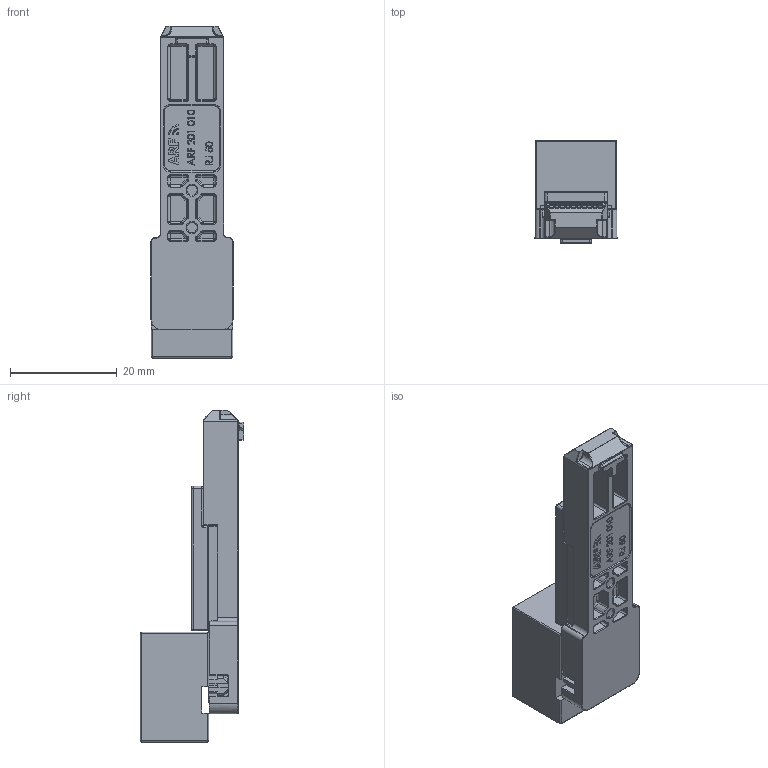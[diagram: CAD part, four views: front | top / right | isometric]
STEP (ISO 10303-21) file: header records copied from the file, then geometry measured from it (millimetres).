
FILE_DESCRIPTION (( 'STEP AP214' ), '1' );
FILE_NAME ('RJ50 - ARF 201 010 RJ50.STEP', '2024-07-10T09:46:48', ( '' ), ( '' ), 'SwSTEP 2.0', 'SolidWorks 2015', '' );
FILE_SCHEMA (( 'AUTOMOTIVE_DESIGN' ));
Length unit declared in the file: millimetre
Products named in the file (10): vis_fr; 8018_081; RJ50 - ARF 201 010 RJ50; ss-641010-nf; 8018_801; 5593_181; 5593_022-rj45-capot-v3; 5593_173-v3-moule; 5593_019-rj50-fond-v4; 5593_171-v4-moule
Assembly tree (11 placements, depth 3):
  RJ50 - ARF 201 010 RJ50
    5593_019-rj50-fond-v4
      5593_171-v4-moule
    5593_022-rj45-capot-v3
      5593_173-v3-moule
    8018_081
      8018_801
      ss-641010-nf
    vis_fr  x2
    5593_181  x2
Bounding box: 15.37 x 19.42 x 62.2 mm (x, y, z)
Volume: 6605 mm3; surface area: 8657.5 mm2
Topology: 11 solids, 11 shells, 2742 faces, 6702 edges, 4031 vertices
Faces by surface type: cylinder 910, plane 805, torus 425, bspline 373, cone 142, sphere 87
Entity records: 80087 total; most frequent: CARTESIAN_POINT 25179, DIRECTION 11436, ORIENTED_EDGE 11274, EDGE_CURVE 5637, AXIS2_PLACEMENT_3D 4440, VERTEX_POINT 3377, LINE 2556, VECTOR 2556
